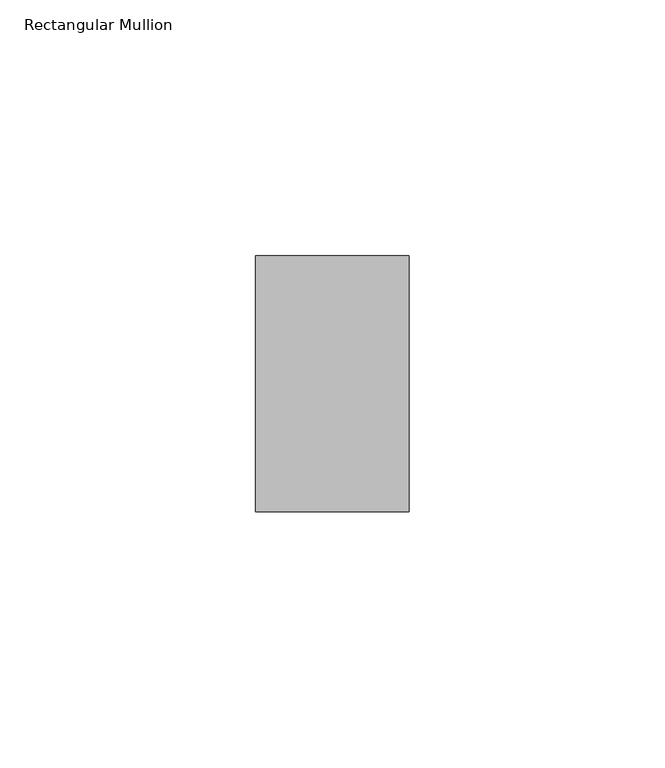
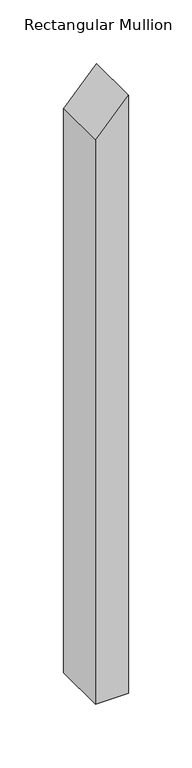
"""IFC4 building model written with IfcOpenShell, lengths in millimetres: member geometry, Rectangular Mullion : ARQ_TV_MULL_50x30mm."""

from ifc_helpers import new_model, si_unit, frame, origin, place, context, project, spatial, polyline, outline, extrude, source, transform, mapped, element, save


def rectangular_mullion_499acf86(model_context):
    return source(origin(), model_context, "Body", "SweptSolid", [
        extrude(outline(polyline([(0.0, 0.0), (-32.5178532, -30.0), (-572.4703691, -30.0), (-572.4703691, 0.0), (0.0, 0.0)])), frame((0.0, -25.0, 0.0), z_axis=(0.0, 1.0, 0.0), x_axis=(0.0, 0.0, 1.0)), (0.0, 0.0, 1.0), 50.0),
    ])


if __name__ == "__main__":
    model = new_model("IFC4")
    model_context = context("Model", 3, world=origin())
    ifc_project = project(units=[si_unit("LENGTHUNIT", "METRE", prefix="MILLI")], contexts=[model_context])
    site = spatial("IfcSite", under=ifc_project)
    building = spatial("IfcBuilding", under=site)
    placement = place(None, origin())
    rectangular_mullion_shape = rectangular_mullion_499acf86(model_context)
    element("IfcMember", 1, ObjectType="Rectangular Mullion : ARQ_TV_MULL_50x30mm", at=placement, inside=building, context=model_context, shape_type="MappedRepresentation", body=[
        mapped(rectangular_mullion_shape, transform((0.0, 0.0, 0.0), x_axis=(1.0, 0.0, 0.0), y_axis=(0.0, 1.0, 0.0), z_axis=(0.0, 0.0, 1.0))),
    ])
    save(model, "model.ifc")
